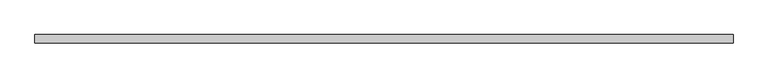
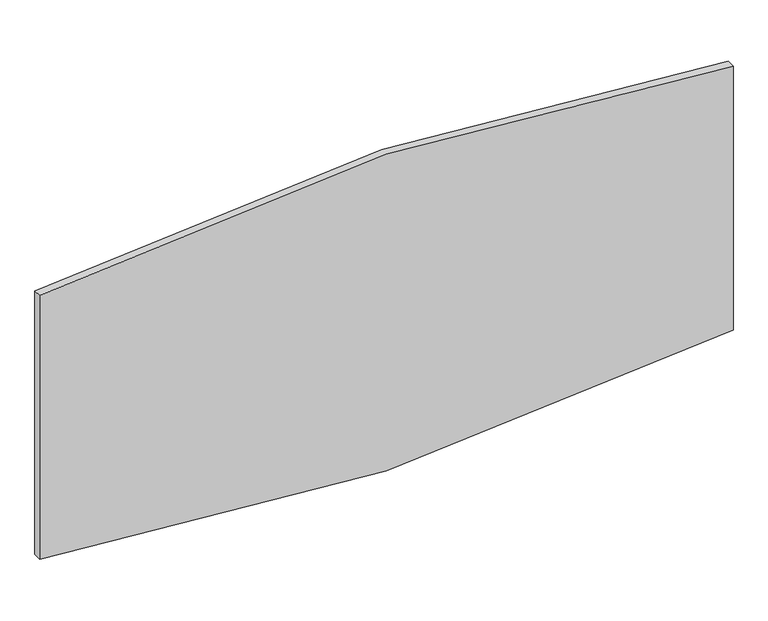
"""IFC4 building model written with IfcOpenShell, lengths in millimetres: proxy geometry, CAMBRIDGE^TABLE 3_2 BASE BOAT-TOP."""

from ifc_helpers import new_model, si_unit, point, frame, frame_2d, origin, place, context, project, spatial, polyline, circle_curve, trimmed, segment, composite_curve, outline, extrude, source, transform, mapped, element, save


def generic_models_588f0a65(model_context):
    return source(origin(), model_context, "Body", "SweptSolid", [
        extrude(outline(composite_curve([segment(polyline([(-151.9984877, -1327.15), (-1219.6015123, -1327.15)]), True, "CONTINUOUS"), segment(trimmed(circle_curve(frame_2d((6915.15, 0.0)), 8242.3), [point((-1219.6015123, -1327.15))], [point((-1219.6015123, 1327.15))], False, "CARTESIAN"), True, "CONTINUOUS"), segment(polyline([(-1219.6015123, 1327.15), (-151.9984877, 1327.15)]), True, "CONTINUOUS"), segment(trimmed(circle_curve(frame_2d((-8286.75, 0.0)), 8242.3), [point((-151.9984877, 1327.15))], [point((-151.9984877, -1327.15))], False, "CARTESIAN"), True, "CONTINUOUS")], self_intersect=False)), frame((0.0, 0.0, 0.0), z_axis=(0.0, 1.0, 0.0), x_axis=(0.0, 0.0, 1.0)), (0.0, 0.0, 1.0), 31.75),
    ])


if __name__ == "__main__":
    model = new_model("IFC4")
    model_context = context("Model", 3, world=origin())
    ifc_project = project(units=[si_unit("LENGTHUNIT", "METRE", prefix="MILLI")], contexts=[model_context])
    site = spatial("IfcSite", under=ifc_project)
    building = spatial("IfcBuilding", under=site)
    placement = place(None, origin())
    generic_models_shape = generic_models_588f0a65(model_context)
    element("IfcBuildingElementProxy", 1, Name="CAMBRIDGE^TABLE 3_2 BASE BOAT-TOP", ObjectType="CAMBRIDGE^TABLE 3_2 BASE BOAT-TOP", at=placement, inside=building, context=model_context, shape_type="MappedRepresentation", body=[
        mapped(generic_models_shape, transform((0.0, 0.0, 0.0), x_axis=(1.0, 0.0, 0.0), y_axis=(0.0, 1.0, 0.0), z_axis=(0.0, 0.0, 1.0))),
    ])
    save(model, "model.ifc")
